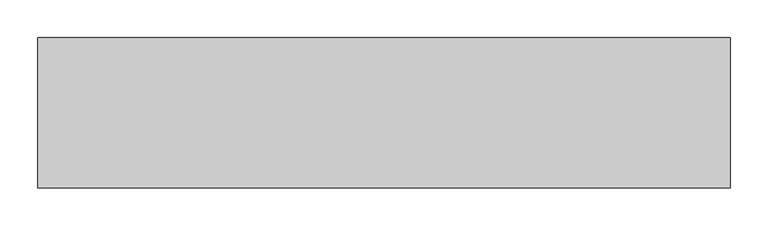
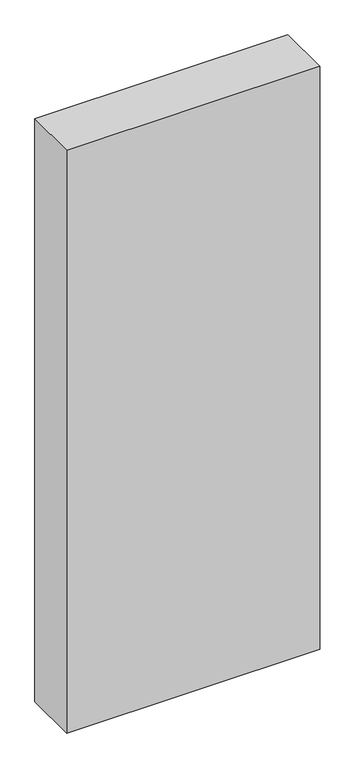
"""IFC4 building model written with IfcOpenShell, lengths in millimetres: proxy geometry."""

from ifc_helpers import new_model, si_unit, origin, origin_with_axes, place, context, project, spatial, polyline, outline, extrude, source, transform, mapped, element, save


def generic_models_8d0e11c5(model_context):
    return source(origin(), model_context, "Body", "SweptSolid", [
        extrude(outline(polyline([(-920.0, 0.0), (0.0, 0.0), (0.0, -200.0), (-920.0, -200.0), (-920.0, 0.0)])), origin_with_axes(), (0.0, 0.0, 1.0), 2240.0),
    ])


if __name__ == "__main__":
    model = new_model("IFC4")
    model_context = context("Model", 3, world=origin())
    ifc_project = project(units=[si_unit("LENGTHUNIT", "METRE", prefix="MILLI")], contexts=[model_context])
    site = spatial("IfcSite", under=ifc_project)
    building = spatial("IfcBuilding", under=site)
    placement = place(None, origin())
    generic_models_shape = generic_models_8d0e11c5(model_context)
    element("IfcBuildingElementProxy", 1, Name="Generic Models", at=placement, inside=building, context=model_context, shape_type="MappedRepresentation", body=[
        mapped(generic_models_shape, transform((0.0, 0.0, 0.0), x_axis=(1.0, 0.0, 0.0), y_axis=(0.0, 1.0, 0.0), z_axis=(0.0, 0.0, 1.0))),
    ])
    save(model, "model.ifc")
